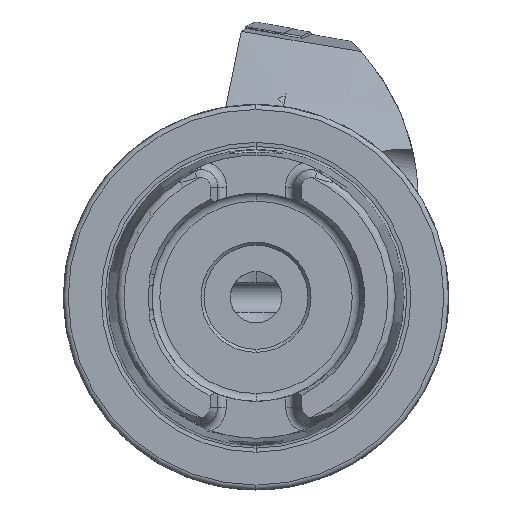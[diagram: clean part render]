
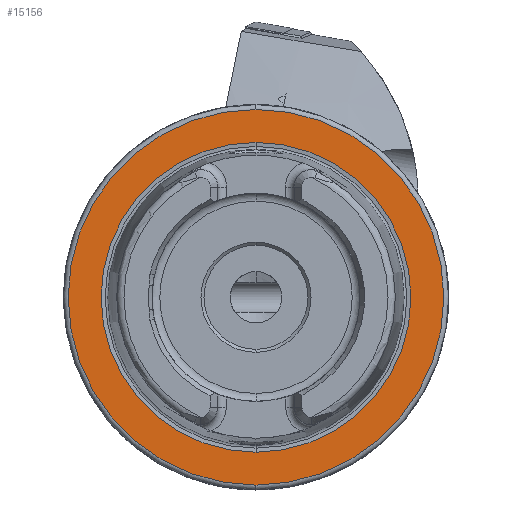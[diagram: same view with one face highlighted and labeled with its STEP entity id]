
A CAD part, left-side view. The second image highlights one B-rep face of the part: STEP entity #15156.
In plain terms, the highlighted planar face has unit normal (-1, 0, 0).
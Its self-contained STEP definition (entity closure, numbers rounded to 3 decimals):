
#67 = CIRCLE ( 'NONE', #9461, 30.7 ) ;
#1530 = CARTESIAN_POINT ( 'NONE',  ( 0., 0., 0. ) ) ;
#3336 = DIRECTION ( 'NONE',  ( -1., 0., 0. ) ) ;
#3964 = ORIENTED_EDGE ( 'NONE', *, *, #9962, .T. ) ;
#4516 = PLANE ( 'NONE',  #17822 ) ;
#4637 = ORIENTED_EDGE ( 'NONE', *, *, #17251, .T. ) ;
#4675 = DIRECTION ( 'NONE',  ( 0., 0., 1. ) ) ;
#4696 = DIRECTION ( 'NONE',  ( 0., 0., 1. ) ) ;
#5210 = ORIENTED_EDGE ( 'NONE', *, *, #9576, .F. ) ;
#6111 = DIRECTION ( 'NONE',  ( 0., 0., 1. ) ) ;
#6131 = DIRECTION ( 'NONE',  ( 1., 0., 0. ) ) ;
#6200 = ORIENTED_EDGE ( 'NONE', *, *, #6810, .F. ) ;
#6810 = EDGE_CURVE ( 'NONE', #15970, #16482, #13093, .T. ) ;
#7157 = DIRECTION ( 'NONE',  ( -1., 0., 0. ) ) ;
#7398 = DIRECTION ( 'NONE',  ( 0., 0., 1. ) ) ;
#7531 = AXIS2_PLACEMENT_3D ( 'NONE', #17818, #13401, #4675 ) ;
#7601 = CARTESIAN_POINT ( 'NONE',  ( 0., 0., -30.7 ) ) ;
#7786 = VERTEX_POINT ( 'NONE', #7601 ) ;
#8311 = CIRCLE ( 'NONE', #7531, 25.324 ) ;
#8324 = AXIS2_PLACEMENT_3D ( 'NONE', #1530, #11776, #6111 ) ;
#8463 = EDGE_LOOP ( 'NONE', ( #3964, #4637 ) ) ;
#8748 = EDGE_LOOP ( 'NONE', ( #6200, #5210 ) ) ;
#9077 = VERTEX_POINT ( 'NONE', #16084 ) ;
#9078 = AXIS2_PLACEMENT_3D ( 'NONE', #12956, #7157, #7398 ) ;
#9461 = AXIS2_PLACEMENT_3D ( 'NONE', #16463, #3336, #4696 ) ;
#9576 = EDGE_CURVE ( 'NONE', #16482, #15970, #8311, .T. ) ;
#9962 = EDGE_CURVE ( 'NONE', #9077, #7786, #67, .T. ) ;
#10306 = DIRECTION ( 'NONE',  ( 0., 0., -1. ) ) ;
#10744 = CIRCLE ( 'NONE', #9078, 30.7 ) ;
#11776 = DIRECTION ( 'NONE',  ( -1., 0., 0. ) ) ;
#12956 = CARTESIAN_POINT ( 'NONE',  ( 0., 0., 0. ) ) ;
#13093 = CIRCLE ( 'NONE', #8324, 25.324 ) ;
#13401 = DIRECTION ( 'NONE',  ( -1., 0., 0. ) ) ;
#13560 = CARTESIAN_POINT ( 'NONE',  ( 0., 0., -25.324 ) ) ;
#14836 = CARTESIAN_POINT ( 'NONE',  ( 0., 30.7, 0. ) ) ;
#15156 = ADVANCED_FACE ( 'NONE', ( #15890, #15221 ), #4516, .F. ) ;
#15221 = FACE_OUTER_BOUND ( 'NONE', #8463, .T. ) ;
#15890 = FACE_BOUND ( 'NONE', #8748, .T. ) ;
#15970 = VERTEX_POINT ( 'NONE', #18317 ) ;
#16084 = CARTESIAN_POINT ( 'NONE',  ( 0., 0., 30.7 ) ) ;
#16463 = CARTESIAN_POINT ( 'NONE',  ( 0., 0., 0. ) ) ;
#16482 = VERTEX_POINT ( 'NONE', #13560 ) ;
#17251 = EDGE_CURVE ( 'NONE', #7786, #9077, #10744, .T. ) ;
#17818 = CARTESIAN_POINT ( 'NONE',  ( 0., 0., 0. ) ) ;
#17822 = AXIS2_PLACEMENT_3D ( 'NONE', #14836, #6131, #10306 ) ;
#18317 = CARTESIAN_POINT ( 'NONE',  ( 0., 0., 25.324 ) ) ;
